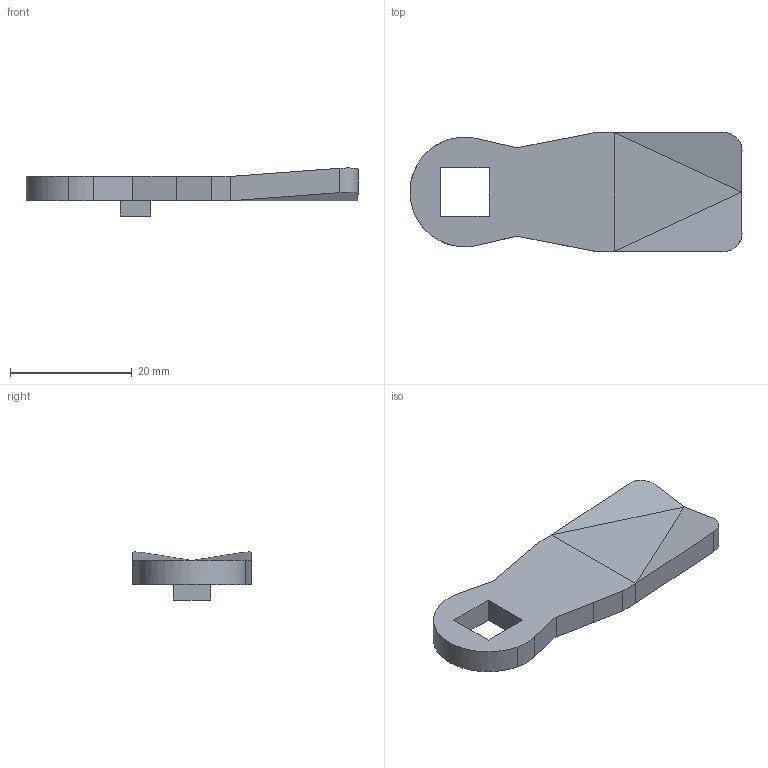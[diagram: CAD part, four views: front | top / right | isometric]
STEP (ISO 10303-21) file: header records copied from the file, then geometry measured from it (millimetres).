
FILE_DESCRIPTION (( 'STEP AP214' ), '1' );
FILE_NAME ('1.4044 Salpa 0.STEP', '2025-08-06T10:18:59', ( '' ), ( '' ), 'SwSTEP 2.0', 'SolidWorks 2025', '' );
FILE_SCHEMA (( 'AUTOMOTIVE_DESIGN' ));
Length unit declared in the file: millimetre
Products named in the file (1): 1.4044 Salpa 0
Bounding box: 54.5 x 19.5 x 7.89 mm (x, y, z)
Volume: 3628.1 mm3; surface area: 2514.1 mm2
Topology: 1 solids, 1 shells, 32 faces, 77 edges, 48 vertices
Faces by surface type: plane 28, cylinder 4
Entity records: 1113 total; most frequent: CARTESIAN_POINT 497, ORIENTED_EDGE 154, EDGE_CURVE 77, B_SPLINE_CURVE_WITH_KNOTS 77, DIRECTION 66, VERTEX_POINT 48, EDGE_LOOP 35, AXIS2_PLACEMENT_3D 33
